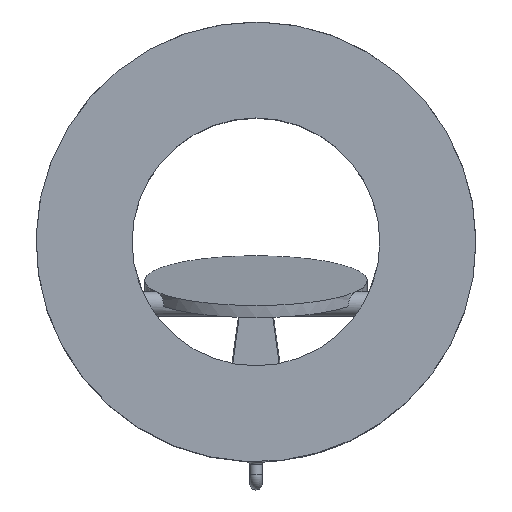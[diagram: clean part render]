
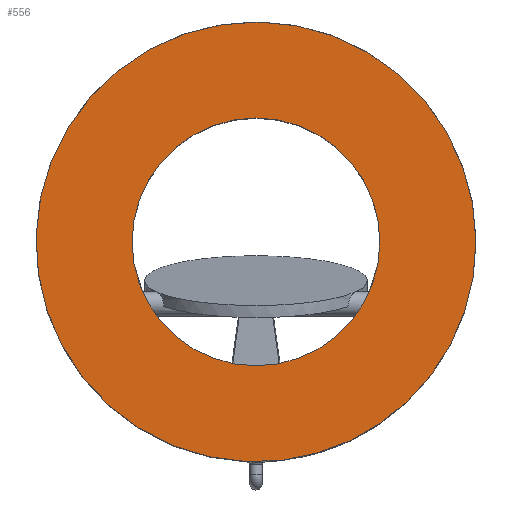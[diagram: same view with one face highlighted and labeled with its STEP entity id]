
A CAD part, top view. The second image highlights one B-rep face of the part: STEP entity #556.
In plain terms, the highlighted planar face has unit normal (0, 0, 1).
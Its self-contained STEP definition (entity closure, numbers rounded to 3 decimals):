
#556 = ADVANCED_FACE( '', ( #1224, #1225 ), #1226, .F. );
#1224 = FACE_OUTER_BOUND( '', #6955, .T. );
#1225 = FACE_BOUND( '', #6956, .T. );
#1226 = PLANE( '', #6957 );
#6955 = EDGE_LOOP( '', ( #10627 ) );
#6956 = EDGE_LOOP( '', ( #10628 ) );
#6957 = AXIS2_PLACEMENT_3D( '', #10629, #10630, #10631 );
#10627 = ORIENTED_EDGE( '', *, *, #11736, .F. );
#10628 = ORIENTED_EDGE( '', *, *, #11737, .F. );
#10629 = CARTESIAN_POINT( '', ( 0., 0., 32. ) );
#10630 = DIRECTION( '', ( 0., 0., -1. ) );
#10631 = DIRECTION( '', ( -1., 0., 0. ) );
#11736 = EDGE_CURVE( '', #12797, #12797, #12798, .T. );
#11737 = EDGE_CURVE( '', #12799, #12799, #12800, .T. );
#12797 = VERTEX_POINT( '', #19618 );
#12798 = CIRCLE( '', #19619, 71. );
#12799 = VERTEX_POINT( '', #19620 );
#12800 = CIRCLE( '', #19621, 40. );
#19618 = CARTESIAN_POINT( '', ( 71., 0., 32. ) );
#19619 = AXIS2_PLACEMENT_3D( '', #20592, #20593, #20594 );
#19620 = CARTESIAN_POINT( '', ( 40., 0., 32. ) );
#19621 = AXIS2_PLACEMENT_3D( '', #20595, #20596, #20597 );
#20592 = CARTESIAN_POINT( '', ( 0., 0., 32. ) );
#20593 = DIRECTION( '', ( 0., 0., -1. ) );
#20594 = DIRECTION( '', ( 1., 0., 0. ) );
#20595 = CARTESIAN_POINT( '', ( 0., 0., 32. ) );
#20596 = DIRECTION( '', ( 0., 0., 1. ) );
#20597 = DIRECTION( '', ( 1., 0., 0. ) );
